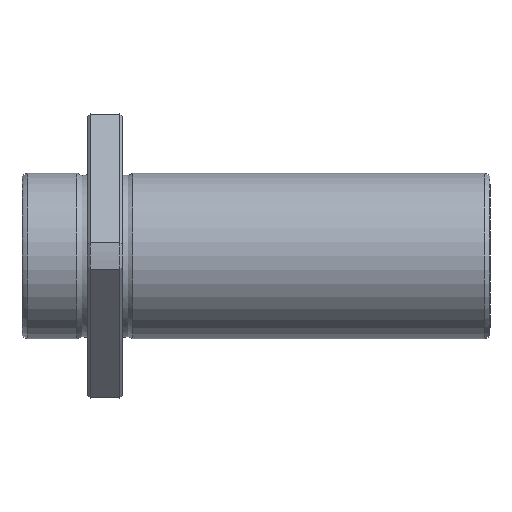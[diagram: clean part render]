
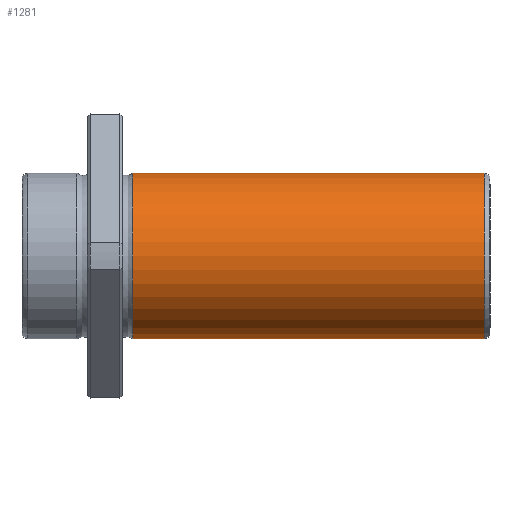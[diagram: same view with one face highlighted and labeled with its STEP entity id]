
A CAD part, front view. The second image highlights one B-rep face of the part: STEP entity #1281.
In plain terms, the highlighted cylindrical face has radius 14 mm (diameter 28 mm), a full revolution.
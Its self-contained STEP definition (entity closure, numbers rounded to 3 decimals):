
#1247=CARTESIAN_POINT('',(77.999,0.0,14.));
#1248=VERTEX_POINT('',#1247);
#1249=CARTESIAN_POINT('',(77.999,0.0,0.0));
#1250=DIRECTION('',(-1.0,0.0,0.0));
#1251=DIRECTION('',(0.0,0.0,1.0));
#1252=AXIS2_PLACEMENT_3D('',#1249,#1250,#1251);
#1253=CIRCLE('',#1252,14.);
#1254=EDGE_CURVE('',#1248,#1248,#1253,.T.);
#1262=CARTESIAN_POINT('',(48.359,0.0,0.0));
#1263=DIRECTION('',(-1.0,0.0,0.0));
#1264=DIRECTION('',(0.0,0.0,1.0));
#1265=AXIS2_PLACEMENT_3D('',#1262,#1263,#1264);
#1266=CYLINDRICAL_SURFACE('',#1265,14.);
#1267=CARTESIAN_POINT('',(18.72,0.0,14.));
#1268=VERTEX_POINT('',#1267);
#1269=CARTESIAN_POINT('',(18.72,0.0,0.0));
#1270=DIRECTION('',(-1.0,0.0,0.0));
#1271=DIRECTION('',(0.0,0.0,1.0));
#1272=AXIS2_PLACEMENT_3D('',#1269,#1270,#1271);
#1273=CIRCLE('',#1272,14.);
#1274=EDGE_CURVE('',#1268,#1268,#1273,.T.);
#1275=ORIENTED_EDGE('',*,*,#1274,.F.);
#1276=EDGE_LOOP('',(#1275));
#1277=FACE_OUTER_BOUND('',#1276,.T.);
#1278=ORIENTED_EDGE('',*,*,#1254,.T.);
#1279=EDGE_LOOP('',(#1278));
#1280=FACE_BOUND('',#1279,.T.);
#1281=ADVANCED_FACE('',(#1277,#1280),#1266,.T.);
